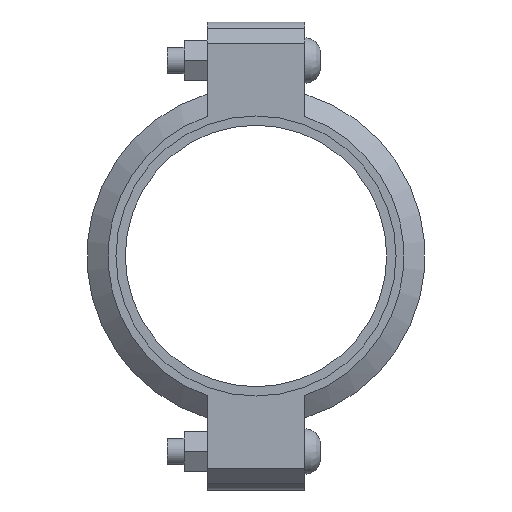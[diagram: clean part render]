
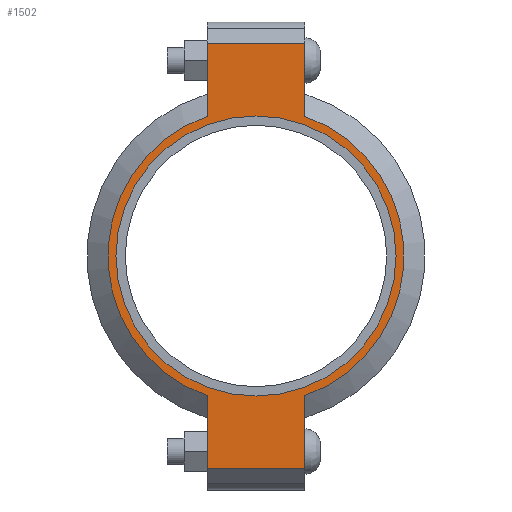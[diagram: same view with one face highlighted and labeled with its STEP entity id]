
A CAD part, left-side view. The second image highlights one B-rep face of the part: STEP entity #1502.
In plain terms, the highlighted planar face has unit normal (-1, 0, 0) as drawn and (0, 0, 1) by its records, which use the part's own axes.
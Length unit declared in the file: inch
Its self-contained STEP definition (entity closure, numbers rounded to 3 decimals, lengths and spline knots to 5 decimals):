
#126=LINE('',#2612,#219);
#134=LINE('',#2648,#227);
#141=LINE('',#2669,#234);
#150=LINE('',#2701,#243);
#151=LINE('',#2705,#244);
#152=LINE('',#2707,#245);
#219=VECTOR('',#2136,0.3937);
#227=VECTOR('',#2152,0.3937);
#234=VECTOR('',#2171,0.3937);
#243=VECTOR('',#2196,0.3937);
#244=VECTOR('',#2201,0.3937);
#245=VECTOR('',#2202,0.3937);
#301=FACE_BOUND('',#479,.T.);
#373=FACE_OUTER_BOUND('',#478,.T.);
#478=EDGE_LOOP('',(#1243,#1244,#1245,#1246,#1247,#1248,#1249,#1250));
#479=EDGE_LOOP('',(#1251));
#551=CIRCLE('',#1712,3.3125);
#577=CIRCLE('',#1771,3.5);
#578=CIRCLE('',#1772,3.5);
#643=VERTEX_POINT('',#2428);
#686=VERTEX_POINT('',#2609);
#687=VERTEX_POINT('',#2611);
#698=VERTEX_POINT('',#2643);
#699=VERTEX_POINT('',#2647);
#706=VERTEX_POINT('',#2666);
#707=VERTEX_POINT('',#2668);
#717=VERTEX_POINT('',#2704);
#718=VERTEX_POINT('',#2706);
#799=EDGE_CURVE('',#643,#643,#551,.T.);
#860=EDGE_CURVE('',#687,#686,#126,.T.);
#874=EDGE_CURVE('',#699,#698,#134,.T.);
#884=EDGE_CURVE('',#707,#706,#141,.T.);
#899=EDGE_CURVE('',#699,#686,#150,.T.);
#900=EDGE_CURVE('',#698,#707,#577,.T.);
#901=EDGE_CURVE('',#717,#706,#151,.T.);
#902=EDGE_CURVE('',#717,#718,#152,.T.);
#903=EDGE_CURVE('',#718,#687,#578,.T.);
#1243=ORIENTED_EDGE('',*,*,#899,.F.);
#1244=ORIENTED_EDGE('',*,*,#874,.T.);
#1245=ORIENTED_EDGE('',*,*,#900,.T.);
#1246=ORIENTED_EDGE('',*,*,#884,.T.);
#1247=ORIENTED_EDGE('',*,*,#901,.F.);
#1248=ORIENTED_EDGE('',*,*,#902,.T.);
#1249=ORIENTED_EDGE('',*,*,#903,.T.);
#1250=ORIENTED_EDGE('',*,*,#860,.T.);
#1251=ORIENTED_EDGE('',*,*,#799,.T.);
#1344=PLANE('',#1770);
#1502=ADVANCED_FACE('',(#373,#301),#1344,.T.);
#1712=AXIS2_PLACEMENT_3D('',#2430,#2012,#2013);
#1770=AXIS2_PLACEMENT_3D('',#2702,#2197,#2198);
#1771=AXIS2_PLACEMENT_3D('',#2703,#2199,#2200);
#1772=AXIS2_PLACEMENT_3D('',#2708,#2203,#2204);
#2012=DIRECTION('center_axis',(0.,0.,-1.));
#2013=DIRECTION('ref_axis',(-1.,0.,0.));
#2136=DIRECTION('',(-1.,0.,0.));
#2152=DIRECTION('',(1.,0.,0.));
#2171=DIRECTION('',(1.,0.,0.));
#2196=DIRECTION('',(0.,1.,0.));
#2197=DIRECTION('center_axis',(0.,0.,1.));
#2198=DIRECTION('ref_axis',(1.,0.,0.));
#2199=DIRECTION('center_axis',(0.,0.,1.));
#2200=DIRECTION('ref_axis',(-1.,0.,0.));
#2201=DIRECTION('',(0.,-1.,0.));
#2202=DIRECTION('',(-1.,0.,0.));
#2203=DIRECTION('center_axis',(0.,0.,1.));
#2204=DIRECTION('ref_axis',(-1.,0.,0.));
#2428=CARTESIAN_POINT('',(3.3125,0.,1.065));
#2430=CARTESIAN_POINT('Origin',(0.,0.,1.065));
#2609=CARTESIAN_POINT('',(-5.035,1.156,1.065));
#2611=CARTESIAN_POINT('',(-3.30358,1.156,1.065));
#2612=CARTESIAN_POINT('',(-5.535,1.156,1.065));
#2643=CARTESIAN_POINT('',(-3.30358,-1.156,1.065));
#2647=CARTESIAN_POINT('',(-5.035,-1.156,1.065));
#2648=CARTESIAN_POINT('',(5.535,-1.156,1.065));
#2666=CARTESIAN_POINT('',(5.035,-1.156,1.065));
#2668=CARTESIAN_POINT('',(3.30358,-1.156,1.065));
#2669=CARTESIAN_POINT('',(5.535,-1.156,1.065));
#2701=CARTESIAN_POINT('',(-5.035,0.578,1.065));
#2702=CARTESIAN_POINT('Origin',(0.,0.,1.065));
#2703=CARTESIAN_POINT('Origin',(0.,0.,1.065));
#2704=CARTESIAN_POINT('',(5.035,1.156,1.065));
#2705=CARTESIAN_POINT('',(5.035,-0.578,1.065));
#2706=CARTESIAN_POINT('',(3.30358,1.156,1.065));
#2707=CARTESIAN_POINT('',(-5.535,1.156,1.065));
#2708=CARTESIAN_POINT('Origin',(0.,0.,1.065));
